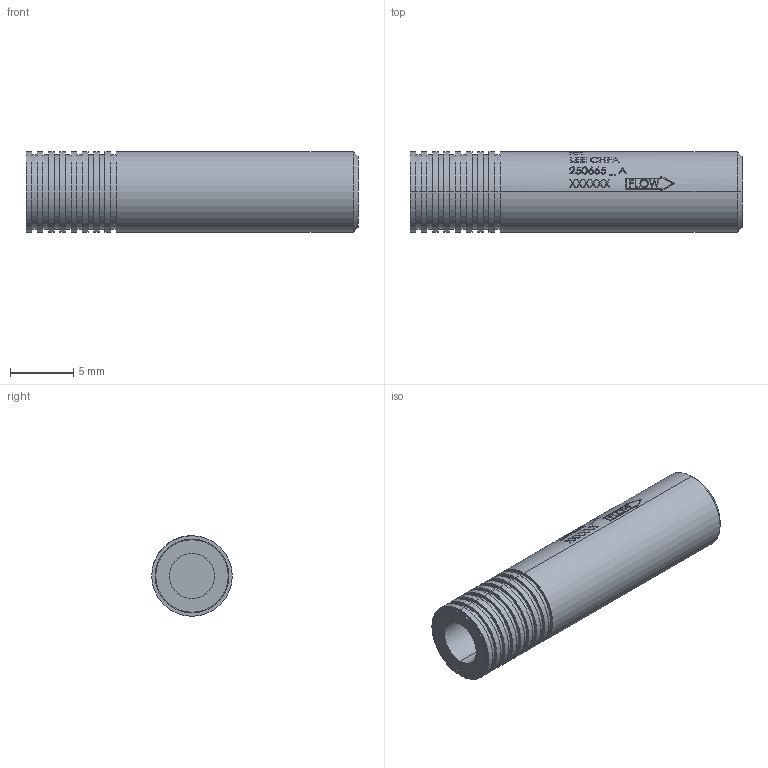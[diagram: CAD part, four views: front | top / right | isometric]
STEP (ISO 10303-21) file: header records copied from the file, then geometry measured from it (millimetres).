
FILE_DESCRIPTION (( 'STEP AP214' ), '1' );
FILE_NAME ('3DCHFA250665-A.STEP', '2021-03-31T12:01:33', ( '' ), ( '' ), 'SwSTEP 2.0', 'SolidWorks 2019', '' );
FILE_SCHEMA (( 'AUTOMOTIVE_DESIGN' ));
Length unit declared in the file: inch
Products named in the file (1): 3DCHFA250665-A
Bounding box: 26.16 x 6.35 x 6.35 mm (x, y, z)
Volume: 725.1 mm3; surface area: 756.8 mm2
Topology: 1 solids, 1 shells, 406 faces, 1049 edges, 698 vertices
Faces by surface type: bspline 168, plane 161, cylinder 73, cone 4
Entity records: 20294 total; most frequent: CARTESIAN_POINT 7378, ORIENTED_EDGE 2098, DIRECTION 1138, EDGE_CURVE 1049, VERTEX_POINT 698, B_SPLINE_CURVE_WITH_KNOTS 559, EDGE_LOOP 459, AXIS2_PLACEMENT_3D 409
